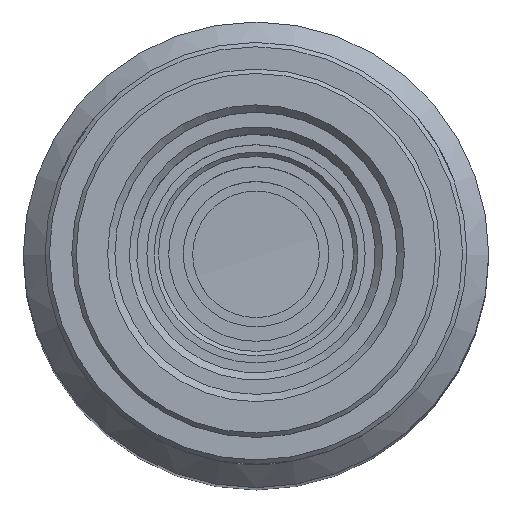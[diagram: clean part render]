
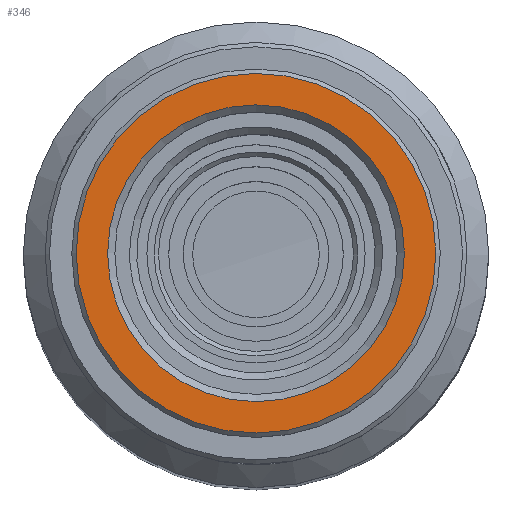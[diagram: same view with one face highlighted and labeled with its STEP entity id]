
A CAD part, top view. The second image highlights one B-rep face of the part: STEP entity #346.
In plain terms, the highlighted planar face has unit normal (0, 0, 1).
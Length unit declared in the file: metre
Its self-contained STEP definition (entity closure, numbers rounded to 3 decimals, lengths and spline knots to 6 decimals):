
#346=ADVANCED_FACE('4:177',(#784,#785),#786,.F.);
#784=FACE_BOUND('',#1412,.T.);
#785=FACE_OUTER_BOUND('',#1413,.T.);
#786=PLANE('',#1414);
#1412=EDGE_LOOP('',(#2403));
#1413=EDGE_LOOP('',(#2404));
#1414=AXIS2_PLACEMENT_3D('',#2405,#2406,#2407);
#2403=ORIENTED_EDGE('',*,*,#3165,.T.);
#2404=ORIENTED_EDGE('',*,*,#3166,.T.);
#2405=CARTESIAN_POINT('',(0.004433,0.017725,0.0915));
#2406=DIRECTION('',(0.,0.,-1.0));
#2407=DIRECTION('',(-0.961,0.276,0.));
#3165=EDGE_CURVE('4:750',#3689,#3689,#3690,.T.);
#3166=EDGE_CURVE('4:759',#3691,#3691,#3692,.T.);
#3689=VERTEX_POINT('',#4552);
#3690=CIRCLE('',#4553,0.0102);
#3691=VERTEX_POINT('',#4554);
#3692=CIRCLE('',#4555,0.01236);
#4552=CARTESIAN_POINT('',(-0.005753,0.005054,0.0915));
#4553=AXIS2_PLACEMENT_3D('',#5321,#5322,#5323);
#4554=CARTESIAN_POINT('',(-0.007913,0.005051,0.0915));
#4555=AXIS2_PLACEMENT_3D('',#5324,#5325,#5326);
#5321=CARTESIAN_POINT('',(0.004447,0.005065,0.0915));
#5322=DIRECTION('',(0.,0.,-1.0));
#5323=DIRECTION('',(-1.,-0.001,0.));
#5324=CARTESIAN_POINT('',(0.004447,0.005065,0.0915));
#5325=DIRECTION('',(0.,0.,1.0));
#5326=DIRECTION('',(-1.,-0.001,0.));
